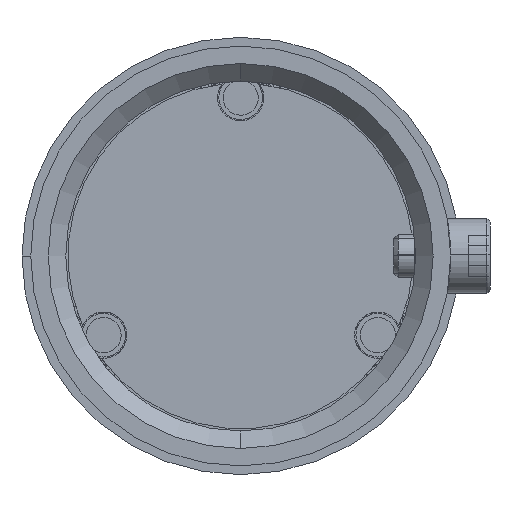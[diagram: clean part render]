
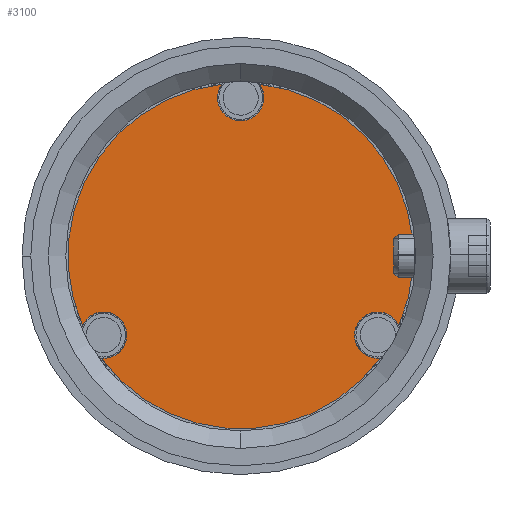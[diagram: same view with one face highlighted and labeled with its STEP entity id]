
A CAD part, front view. The second image highlights one B-rep face of the part: STEP entity #3100.
In plain terms, the highlighted planar face has unit normal (0, -1, 0) as drawn and (0, 1, 0) by its records, which use the part's own axes.
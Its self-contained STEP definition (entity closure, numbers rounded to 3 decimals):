
#2371=CARTESIAN_POINT('',(0.,8.,0.));
#2372=DIRECTION('',(0.,1.,0.));
#2373=DIRECTION('',(0.916,0.,0.402));
#2374=AXIS2_PLACEMENT_3D('',#2371,#2372,#2373);
#2395=CARTESIAN_POINT('',(0.,8.,0.));
#2396=DIRECTION('',(0.,1.,0.));
#2397=DIRECTION('',(-0.11,0.,-0.994));
#2398=AXIS2_PLACEMENT_3D('',#2395,#2396,#2397);
#2403=CARTESIAN_POINT('',(0.,8.,-18.1));
#2404=DIRECTION('',(0.,-1.,0.));
#2405=DIRECTION('',(-1.,0.,0.));
#2406=AXIS2_PLACEMENT_3D('',#2403,#2404,#2405);
#2411=CARTESIAN_POINT('',(0.,8.,-18.1));
#2412=DIRECTION('',(0.,-1.,0.));
#2413=DIRECTION('',(1.,0.,0.));
#2414=AXIS2_PLACEMENT_3D('',#2411,#2412,#2413);
#2419=CARTESIAN_POINT('',(0.,8.,-18.1));
#2420=DIRECTION('',(0.,-1.,0.));
#2421=DIRECTION('',(0.816,0.,-0.578));
#2422=AXIS2_PLACEMENT_3D('',#2419,#2420,#2421);
#2427=CARTESIAN_POINT('',(15.675,8.,9.05));
#2428=DIRECTION('',(0.,-1.,0.));
#2429=DIRECTION('',(-1.,0.,0.));
#2430=AXIS2_PLACEMENT_3D('',#2427,#2428,#2429);
#2435=CARTESIAN_POINT('',(15.675,8.,9.05));
#2436=DIRECTION('',(0.,-1.,0.));
#2437=DIRECTION('',(0.092,0.,0.996));
#2438=AXIS2_PLACEMENT_3D('',#2435,#2436,#2437);
#2443=CARTESIAN_POINT('',(0.,8.,0.));
#2444=DIRECTION('',(0.,1.,0.));
#2445=DIRECTION('',(-0.806,0.,0.592));
#2446=AXIS2_PLACEMENT_3D('',#2443,#2444,#2445);
#2451=CARTESIAN_POINT('',(-15.675,8.,9.05));
#2452=DIRECTION('',(0.,-1.,0.));
#2453=DIRECTION('',(1.,0.,0.));
#2454=AXIS2_PLACEMENT_3D('',#2451,#2452,#2453);
#2459=CARTESIAN_POINT('',(-15.675,8.,9.05));
#2460=DIRECTION('',(0.,-1.,0.));
#2461=DIRECTION('',(-0.908,0.,-0.418));
#2462=AXIS2_PLACEMENT_3D('',#2459,#2460,#2461);
#2745=CARTESIAN_POINT('',(-15.92,8.,11.689));
#2746=CARTESIAN_POINT('',(15.92,8.,11.689));
#2747=VERTEX_POINT('',#2745);
#2748=VERTEX_POINT('',#2746);
#2753=CARTESIAN_POINT('',(18.083,8.,7.943));
#2754=CARTESIAN_POINT('',(2.163,8.,-19.631));
#2755=VERTEX_POINT('',#2753);
#2756=VERTEX_POINT('',#2754);
#2765=CARTESIAN_POINT('',(-2.163,8.,-19.631));
#2766=CARTESIAN_POINT('',(-18.083,8.,7.943));
#2767=VERTEX_POINT('',#2765);
#2768=VERTEX_POINT('',#2766);
#2793=CARTESIAN_POINT('',(2.65,8.,-18.1));
#2794=CARTESIAN_POINT('',(-2.65,8.,-18.1));
#2795=VERTEX_POINT('',#2793);
#2796=VERTEX_POINT('',#2794);
#2801=CARTESIAN_POINT('',(13.025,8.,9.05));
#2802=VERTEX_POINT('',#2801);
#2803=CARTESIAN_POINT('',(-13.025,8.,9.05));
#2804=VERTEX_POINT('',#2803);
#3076=CARTESIAN_POINT('',(0.,8.,0.));
#3077=DIRECTION('',(0.,1.,0.));
#3078=DIRECTION('',(1.,0.,0.));
#3079=AXIS2_PLACEMENT_3D('',#3076,#3077,#3078);
#3080=PLANE('',#3079);
#3081=ORIENTED_EDGE('',*,*,#3062,.F.);
#3083=ORIENTED_EDGE('',*,*,#3082,.F.);
#3085=ORIENTED_EDGE('',*,*,#3084,.F.);
#3087=ORIENTED_EDGE('',*,*,#3086,.F.);
#3088=ORIENTED_EDGE('',*,*,#3015,.F.);
#3090=ORIENTED_EDGE('',*,*,#3089,.F.);
#3092=ORIENTED_EDGE('',*,*,#3091,.F.);
#3093=ORIENTED_EDGE('',*,*,#3040,.F.);
#3095=ORIENTED_EDGE('',*,*,#3094,.F.);
#3097=ORIENTED_EDGE('',*,*,#3096,.F.);
#3098=EDGE_LOOP('',(#3081,#3083,#3085,#3087,#3088,#3090,#3092,#3093,#3095,
#3097));
#3099=FACE_OUTER_BOUND('',#3098,.F.);
#2375=CIRCLE('',#2374,19.75);
#2399=CIRCLE('',#2398,19.75);
#2407=CIRCLE('',#2406,2.65);
#2415=CIRCLE('',#2414,2.65);
#2423=CIRCLE('',#2422,2.65);
#2431=CIRCLE('',#2430,2.65);
#2439=CIRCLE('',#2438,2.65);
#2447=CIRCLE('',#2446,19.75);
#2455=CIRCLE('',#2454,2.65);
#2463=CIRCLE('',#2462,2.65);
#3015=EDGE_CURVE('',#2755,#2756,#2375,.T.);
#3040=EDGE_CURVE('',#2747,#2748,#2447,.T.);
#3062=EDGE_CURVE('',#2767,#2768,#2399,.T.);
#3082=EDGE_CURVE('',#2796,#2767,#2407,.T.);
#3084=EDGE_CURVE('',#2795,#2796,#2415,.T.);
#3086=EDGE_CURVE('',#2756,#2795,#2423,.T.);
#3089=EDGE_CURVE('',#2802,#2755,#2431,.T.);
#3091=EDGE_CURVE('',#2748,#2802,#2439,.T.);
#3094=EDGE_CURVE('',#2804,#2747,#2455,.T.);
#3096=EDGE_CURVE('',#2768,#2804,#2463,.T.);
#3100=ADVANCED_FACE('',(#3099),#3080,.T.);
